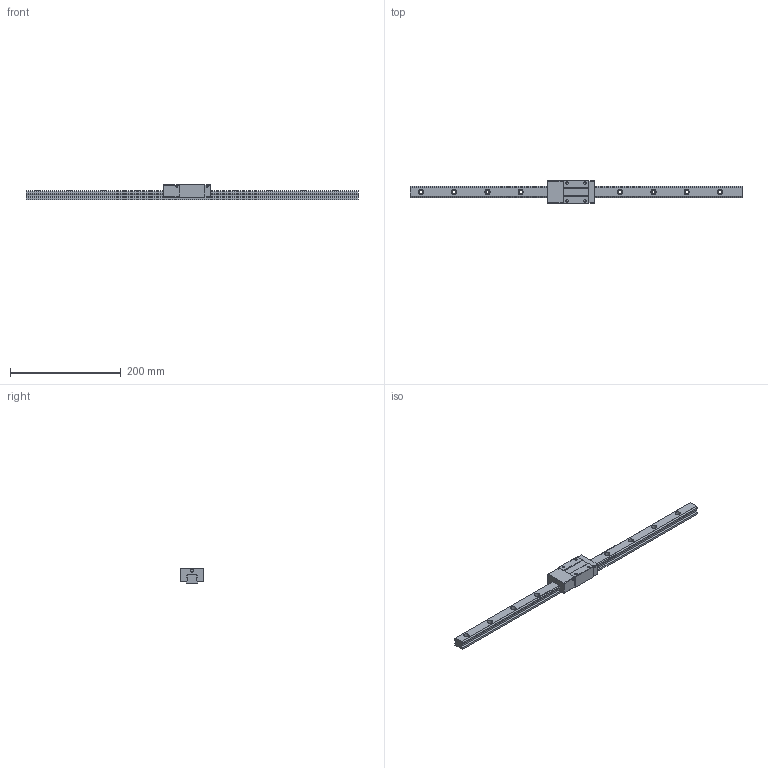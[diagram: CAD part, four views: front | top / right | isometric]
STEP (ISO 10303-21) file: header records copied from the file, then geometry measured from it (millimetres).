
FILE_DESCRIPTION (( 'STEP AP203' ), '1' );
FILE_NAME ('TRS20VN-BN.STEP', '2024-07-11T09:10:32', ( '' ), ( '' ), 'SwSTEP 2.0', 'SolidWorks 2022', '' );
FILE_SCHEMA (( 'CONFIG_CONTROL_DESIGN' ));
Length unit declared in the file: millimetre
Products named in the file (1): TRS20VN-BN
Bounding box: 600 x 42 x 28 mm (x, y, z)
Volume: 231493.6 mm3; surface area: 65006.1 mm2
Topology: 2 solids, 2 shells, 192 faces, 496 edges, 328 vertices
Faces by surface type: cylinder 96, plane 96
Entity records: 6023 total; most frequent: DIRECTION 1074, CARTESIAN_POINT 1017, ORIENTED_EDGE 992, EDGE_CURVE 496, AXIS2_PLACEMENT_3D 385, VERTEX_POINT 328, LINE 304, VECTOR 304
